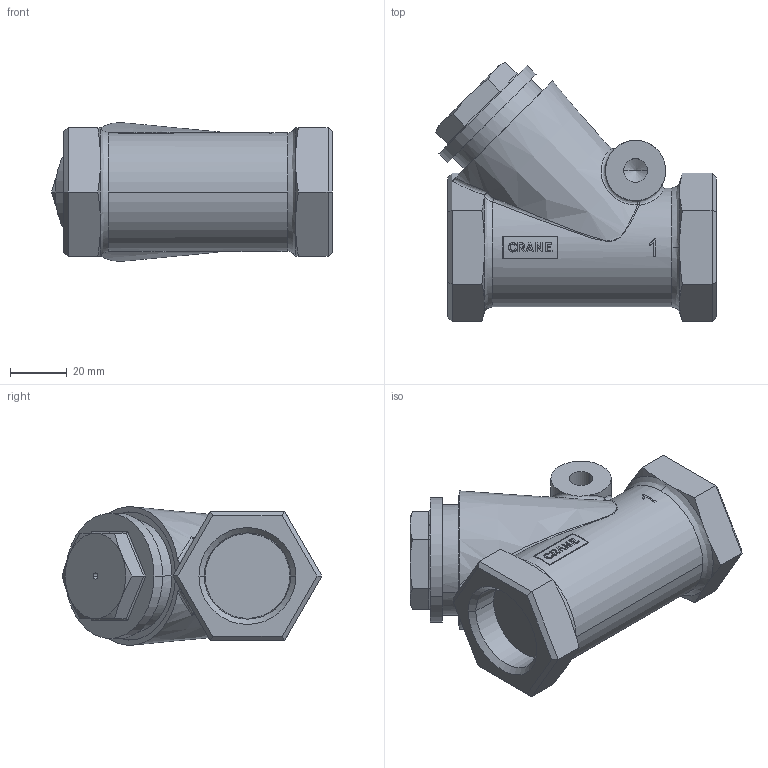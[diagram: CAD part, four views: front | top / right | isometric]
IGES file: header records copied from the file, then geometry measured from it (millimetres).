
Global section: file name: No Iges File Name specified; native system: AutoDesk Inventor R12.0; preprocessor: AutoDesk Inventor Iges Exporter R12.0; date: 20110303.114326; units: millimetre
Bounding box: 98.49 x 91.09 x 48.71 mm (x, y, z)
Volume: 165570.4 mm3; surface area: 36484.9 mm2
Topology: 1 solids, 2 shells, 416 faces, 1134 edges, 741 vertices
Faces by surface type: bspline 212, plane 125, revolution 27, cylinder 25, cone 23, torus 3, sphere 1
